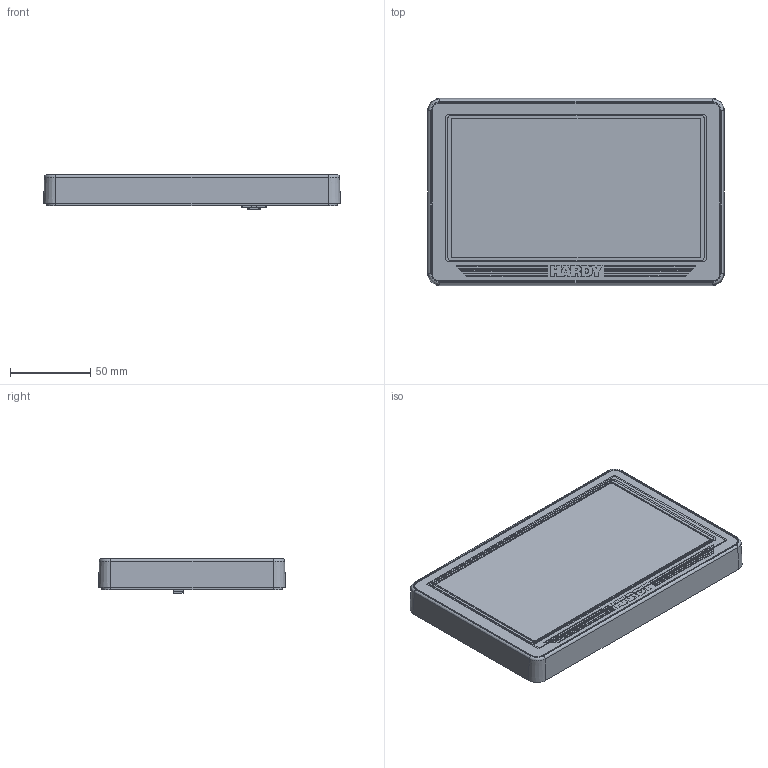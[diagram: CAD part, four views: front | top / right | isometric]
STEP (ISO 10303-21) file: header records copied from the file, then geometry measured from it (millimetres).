
FILE_DESCRIPTION (( 'STEP AP214' ), '1' );
FILE_NAME ('HI6150.STEP', '2023-10-18T15:28:27', ( '' ), ( '' ), 'SwSTEP 2.0', 'SolidWorks 2020', '' );
FILE_SCHEMA (( 'AUTOMOTIVE_DESIGN' ));
Length unit declared in the file: inch
Products named in the file (17): 2118-0378-0; LCD Resistive Touch Screen_7in_E70RG38048LW2M430-R; 0524-0040-01-0_STIFFENER; PWB_0534-0597-01-0; RGB LCD_7inch_E70RG38048LW2M430-R; 2158-0035-0_Molex_541324062; RGB LCD_Tail_7in_E70RG38048LW2M430-R; 0530-0885-01-0; PWA_0535-0597-01-0; 0579-0035-01-0; 0517-0139-01-0; 2450-0043-0; 0524-0040-01-0; pan cross head_am_B18.6.7M - M2 x 0.4 x 4 Type I Cross Recessed PHMS --4N; HI6150; 2158-0021-0; 0524-0040-01-0_GASKET
Assembly tree (19 placements, depth 3):
  HI6150
    0579-0035-01-0
    2450-0043-0
      RGB LCD_7inch_E70RG38048LW2M430-R
      LCD Resistive Touch Screen_7in_E70RG38048LW2M430-R
      RGB LCD_Tail_7in_E70RG38048LW2M430-R
    0517-0139-01-0
    PWA_0535-0597-01-0
      PWB_0534-0597-01-0
      2158-0035-0_Molex_541324062
      2118-0378-0
      2158-0021-0
    pan cross head_am_B18.6.7M - M2 x 0.4 x 4 Type I Cross Recessed PHMS --4N  x4
    0524-0040-01-0
      0524-0040-01-0_GASKET
      0524-0040-01-0_STIFFENER
    0530-0885-01-0
Bounding box: 185.42 x 116.84 x 21.53 mm (x, y, z)
Volume: 249043.1 mm3; surface area: 248692.8 mm2
Topology: 42 solids, 42 shells, 6380 faces, 17314 edges, 11350 vertices
Faces by surface type: plane 4650, bspline 850, cylinder 646, torus 126, cone 76, sphere 32
Entity records: 263640 total; most frequent: CARTESIAN_POINT 46378, ORIENTED_EDGE 34292, DIRECTION 27988, EDGE_CURVE 17146, VECTOR 13848, LINE 13848, VERTEX_POINT 11260, AXIS2_PLACEMENT_3D 7070
